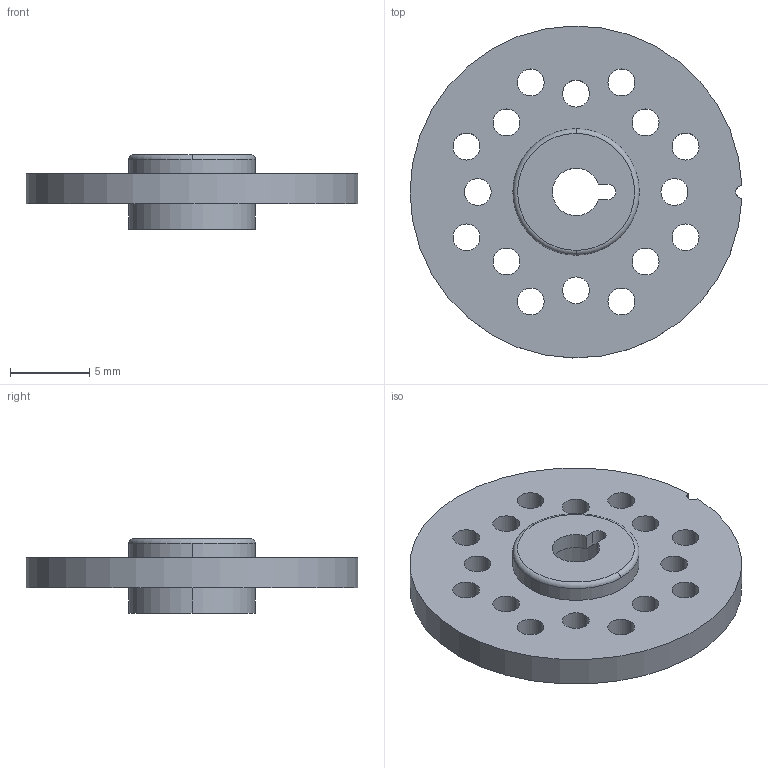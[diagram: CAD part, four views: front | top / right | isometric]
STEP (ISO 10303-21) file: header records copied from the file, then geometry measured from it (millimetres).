
FILE_DESCRIPTION (( 'STEP AP214' ), '1' );
FILE_NAME ('RS40x_AlHorn.STEP', '2008-09-04T07:00:23', ( 'cada3' ), ( '双葉電子工業（株）' ), 'SwSTEP 2.0', 'SolidWorks 2008', '' );
FILE_SCHEMA (( 'AUTOMOTIVE_DESIGN' ));
Length unit declared in the file: millimetre
Products named in the file (1): RS40x_AlHorn
Bounding box: 20.99 x 21 x 4.7 mm (x, y, z)
Volume: 616.3 mm3; surface area: 1040.1 mm2
Topology: 1 solids, 1 shells, 52 faces, 141 edges, 94 vertices
Faces by surface type: cylinder 43, plane 7, torus 2
Entity records: 1788 total; most frequent: DIRECTION 339, CARTESIAN_POINT 288, ORIENTED_EDGE 282, AXIS2_PLACEMENT_3D 145, EDGE_CURVE 141, VERTEX_POINT 94, CIRCLE 92, EDGE_LOOP 89
